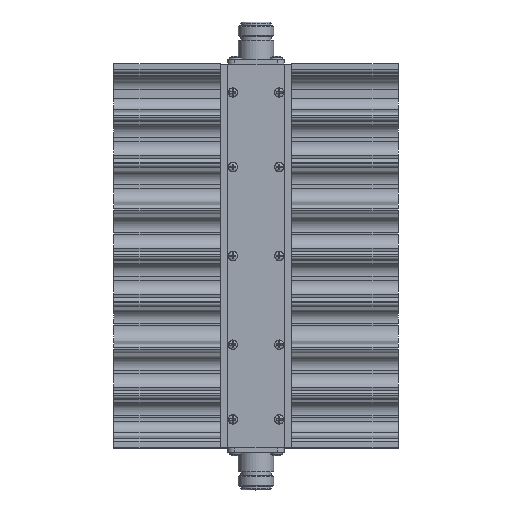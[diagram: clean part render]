
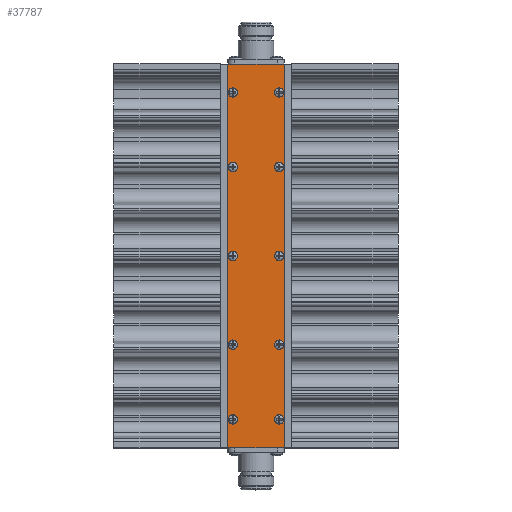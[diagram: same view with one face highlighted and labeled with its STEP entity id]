
A CAD part, top view. The second image highlights one B-rep face of the part: STEP entity #37787.
In plain terms, the highlighted planar face has unit normal (0, 0, 1).
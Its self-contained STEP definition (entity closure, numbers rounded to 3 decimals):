
#789=PLANE('',#39646);
#2114=LINE('',#50384,#4877);
#2230=LINE('',#50999,#4993);
#2237=LINE('',#51016,#5000);
#2240=LINE('',#51021,#5003);
#4877=VECTOR('',#42781,1000.);
#4993=VECTOR('',#43147,1000.);
#5000=VECTOR('',#43160,1000.);
#5003=VECTOR('',#43165,1000.);
#9483=ORIENTED_EDGE('',*,*,#16514,.T.);
#9484=ORIENTED_EDGE('',*,*,#16515,.T.);
#9485=ORIENTED_EDGE('',*,*,#16516,.T.);
#9486=ORIENTED_EDGE('',*,*,#16517,.T.);
#9487=ORIENTED_EDGE('',*,*,#16518,.T.);
#9488=ORIENTED_EDGE('',*,*,#16519,.T.);
#9489=ORIENTED_EDGE('',*,*,#16520,.T.);
#9490=ORIENTED_EDGE('',*,*,#16521,.T.);
#9491=ORIENTED_EDGE('',*,*,#16522,.T.);
#9492=ORIENTED_EDGE('',*,*,#16523,.T.);
#9493=ORIENTED_EDGE('',*,*,#16465,.F.);
#9494=ORIENTED_EDGE('',*,*,#16468,.F.);
#9495=ORIENTED_EDGE('',*,*,#16243,.T.);
#9496=ORIENTED_EDGE('',*,*,#16456,.T.);
#16243=EDGE_CURVE('',#20019,#20018,#2114,.T.);
#16456=EDGE_CURVE('',#20018,#20177,#2230,.T.);
#16465=EDGE_CURVE('',#20185,#20177,#2237,.T.);
#16468=EDGE_CURVE('',#20019,#20185,#2240,.T.);
#16514=EDGE_CURVE('',#20215,#20215,#22555,.T.);
#16515=EDGE_CURVE('',#20216,#20216,#22556,.T.);
#16516=EDGE_CURVE('',#20217,#20217,#22557,.T.);
#16517=EDGE_CURVE('',#20218,#20218,#22558,.T.);
#16518=EDGE_CURVE('',#20219,#20219,#22559,.T.);
#16519=EDGE_CURVE('',#20220,#20220,#22560,.T.);
#16520=EDGE_CURVE('',#20221,#20221,#22561,.T.);
#16521=EDGE_CURVE('',#20222,#20222,#22562,.T.);
#16522=EDGE_CURVE('',#20223,#20223,#22563,.T.);
#16523=EDGE_CURVE('',#20224,#20224,#22564,.T.);
#20018=VERTEX_POINT('',#50383);
#20019=VERTEX_POINT('',#50385);
#20177=VERTEX_POINT('',#50997);
#20185=VERTEX_POINT('',#51015);
#20215=VERTEX_POINT('',#51115);
#20216=VERTEX_POINT('',#51117);
#20217=VERTEX_POINT('',#51119);
#20218=VERTEX_POINT('',#51121);
#20219=VERTEX_POINT('',#51123);
#20220=VERTEX_POINT('',#51125);
#20221=VERTEX_POINT('',#51127);
#20222=VERTEX_POINT('',#51129);
#20223=VERTEX_POINT('',#51131);
#20224=VERTEX_POINT('',#51133);
#22555=CIRCLE('',#39647,2.121);
#22556=CIRCLE('',#39648,2.121);
#22557=CIRCLE('',#39649,2.121);
#22558=CIRCLE('',#39650,2.121);
#22559=CIRCLE('',#39651,2.121);
#22560=CIRCLE('',#39652,2.121);
#22561=CIRCLE('',#39653,2.121);
#22562=CIRCLE('',#39654,2.121);
#22563=CIRCLE('',#39655,2.121);
#22564=CIRCLE('',#39656,2.121);
#23459=EDGE_LOOP('',(#9483));
#23460=EDGE_LOOP('',(#9484));
#23461=EDGE_LOOP('',(#9485));
#23462=EDGE_LOOP('',(#9486));
#23463=EDGE_LOOP('',(#9487));
#23464=EDGE_LOOP('',(#9488));
#23465=EDGE_LOOP('',(#9489));
#23466=EDGE_LOOP('',(#9490));
#23467=EDGE_LOOP('',(#9491));
#23468=EDGE_LOOP('',(#9492));
#23469=EDGE_LOOP('',(#9493,#9494,#9495,#9496));
#25259=FACE_BOUND('',#23459,.T.);
#25260=FACE_BOUND('',#23460,.T.);
#25261=FACE_BOUND('',#23461,.T.);
#25262=FACE_BOUND('',#23462,.T.);
#25263=FACE_BOUND('',#23463,.T.);
#25264=FACE_BOUND('',#23464,.T.);
#25265=FACE_BOUND('',#23465,.T.);
#25266=FACE_BOUND('',#23466,.T.);
#25267=FACE_BOUND('',#23467,.T.);
#25268=FACE_BOUND('',#23468,.T.);
#25269=FACE_BOUND('',#23469,.T.);
#37787=ADVANCED_FACE('',(#25259,#25260,#25261,#25262,#25263,#25264,#25265,
#25266,#25267,#25268,#25269),#789,.T.);
#39646=AXIS2_PLACEMENT_3D('',#51113,#43269,#43270);
#39647=AXIS2_PLACEMENT_3D('',#51114,#43271,#43272);
#39648=AXIS2_PLACEMENT_3D('',#51116,#43273,#43274);
#39649=AXIS2_PLACEMENT_3D('',#51118,#43275,#43276);
#39650=AXIS2_PLACEMENT_3D('',#51120,#43277,#43278);
#39651=AXIS2_PLACEMENT_3D('',#51122,#43279,#43280);
#39652=AXIS2_PLACEMENT_3D('',#51124,#43281,#43282);
#39653=AXIS2_PLACEMENT_3D('',#51126,#43283,#43284);
#39654=AXIS2_PLACEMENT_3D('',#51128,#43285,#43286);
#39655=AXIS2_PLACEMENT_3D('',#51130,#43287,#43288);
#39656=AXIS2_PLACEMENT_3D('',#51132,#43289,#43290);
#42781=DIRECTION('',(1.,0.,0.));
#43147=DIRECTION('',(0.,1.,0.));
#43160=DIRECTION('',(1.,0.,0.));
#43165=DIRECTION('',(0.,1.,0.));
#43269=DIRECTION('',(0.,0.,1.));
#43270=DIRECTION('',(-1.,0.,0.));
#43271=DIRECTION('',(0.,0.,-1.));
#43272=DIRECTION('',(1.,0.,0.));
#43273=DIRECTION('',(0.,0.,-1.));
#43274=DIRECTION('',(1.,0.,0.));
#43275=DIRECTION('',(0.,0.,-1.));
#43276=DIRECTION('',(1.,0.,0.));
#43277=DIRECTION('',(0.,0.,-1.));
#43278=DIRECTION('',(1.,0.,0.));
#43279=DIRECTION('',(0.,0.,-1.));
#43280=DIRECTION('',(1.,0.,0.));
#43281=DIRECTION('',(0.,0.,-1.));
#43282=DIRECTION('',(1.,0.,0.));
#43283=DIRECTION('',(0.,0.,-1.));
#43284=DIRECTION('',(1.,0.,0.));
#43285=DIRECTION('',(0.,0.,-1.));
#43286=DIRECTION('',(1.,0.,0.));
#43287=DIRECTION('',(0.,0.,-1.));
#43288=DIRECTION('',(1.,0.,0.));
#43289=DIRECTION('',(0.,0.,-1.));
#43290=DIRECTION('',(1.,0.,0.));
#50383=CARTESIAN_POINT('',(-50.8,0.,13.386));
#50384=CARTESIAN_POINT('',(-76.2,0.,13.386));
#50385=CARTESIAN_POINT('',(-76.2,0.,13.386));
#50997=CARTESIAN_POINT('',(-50.8,171.45,13.386));
#50999=CARTESIAN_POINT('',(-50.8,0.,13.386));
#51015=CARTESIAN_POINT('',(-76.2,171.45,13.386));
#51016=CARTESIAN_POINT('',(-76.2,171.45,13.386));
#51021=CARTESIAN_POINT('',(-76.2,0.,13.386));
#51113=CARTESIAN_POINT('',(-76.2,0.,13.386));
#51114=CARTESIAN_POINT('',(-53.162,12.7,13.386));
#51115=CARTESIAN_POINT('',(-51.041,12.7,13.386));
#51116=CARTESIAN_POINT('',(-53.162,158.75,13.386));
#51117=CARTESIAN_POINT('',(-51.041,158.75,13.386));
#51118=CARTESIAN_POINT('',(-73.838,158.75,13.386));
#51119=CARTESIAN_POINT('',(-71.717,158.75,13.386));
#51120=CARTESIAN_POINT('',(-73.838,125.451,13.386));
#51121=CARTESIAN_POINT('',(-71.717,125.451,13.386));
#51122=CARTESIAN_POINT('',(-53.162,125.451,13.386));
#51123=CARTESIAN_POINT('',(-51.041,125.451,13.386));
#51124=CARTESIAN_POINT('',(-53.162,85.75,13.386));
#51125=CARTESIAN_POINT('',(-51.041,85.75,13.386));
#51126=CARTESIAN_POINT('',(-73.838,85.75,13.386));
#51127=CARTESIAN_POINT('',(-71.717,85.75,13.386));
#51128=CARTESIAN_POINT('',(-73.838,46.076,13.386));
#51129=CARTESIAN_POINT('',(-71.717,46.076,13.386));
#51130=CARTESIAN_POINT('',(-53.162,46.076,13.386));
#51131=CARTESIAN_POINT('',(-51.041,46.076,13.386));
#51132=CARTESIAN_POINT('',(-73.838,12.7,13.386));
#51133=CARTESIAN_POINT('',(-71.717,12.7,13.386));
